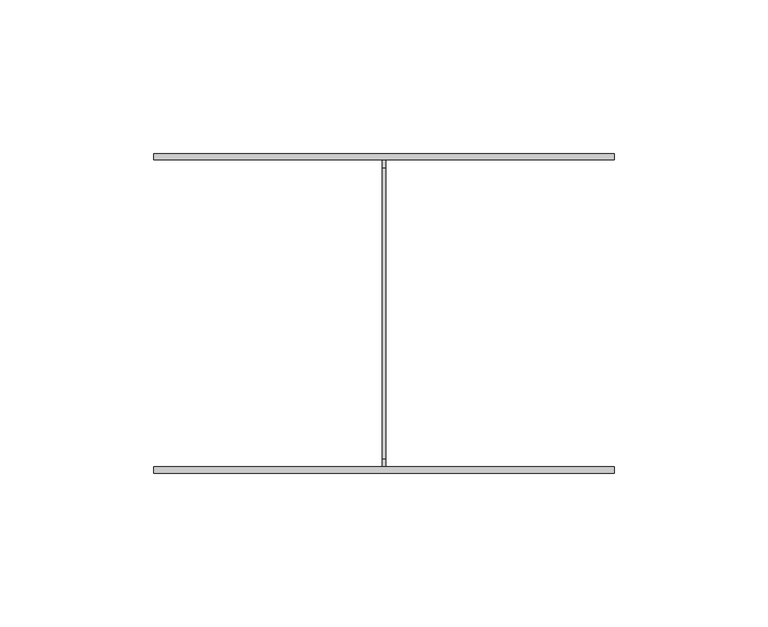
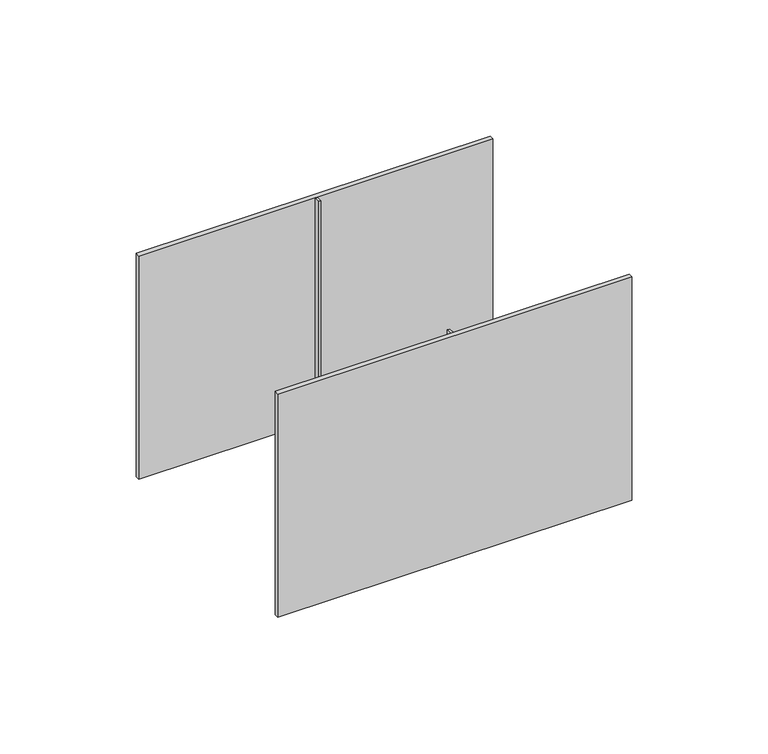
"""IFC4 building model written with IfcOpenShell, lengths in millimetres: cable carrier fitting geometry, BAKS_Plate_connector : LZCH100."""

from ifc_helpers import new_model, si_unit, frame, origin, place, context, project, spatial, polyline, outline, extrude, source, transform, mapped, element, save


def cable_carrier_fitting_aaacfa07(model_context):
    return source(origin(), model_context, "Body", "SweptSolid", [
        extrude(outline(polyline([(75.5, 52.0), (75.5, 50.0), (-74.5, 50.0), (-74.5, 52.0), (75.5, 52.0)])), frame((0.0, 0.0, -50.0), z_axis=(0.0, 0.0, 1.0), x_axis=(1.0, 0.0, 0.0)), (0.0, 0.0, 1.0), 100.0),
        extrude(outline(polyline([(75.5, -50.0), (75.5, -52.0), (-74.5, -52.0), (-74.5, -50.0), (75.5, -50.0)])), frame((0.0, 0.0, -50.0), z_axis=(0.0, 0.0, 1.0), x_axis=(1.0, 0.0, 0.0)), (0.0, 0.0, 1.0), 100.0),
        extrude(outline(polyline([(-50.0, -50.0), (-50.0, 50.0), (-47.46, 50.0), (-47.46, -47.46), (47.46, -47.46), (47.46, 50.0), (50.0, 50.0), (50.0, -50.0), (-50.0, -50.0)])), frame((0.0, 0.0, 0.0), z_axis=(1.0, 0.0, 0.0), x_axis=(0.0, 1.0, 0.0)), (0.0, 0.0, 1.0), 1.0),
    ])


if __name__ == "__main__":
    model = new_model("IFC4")
    model_context = context("Model", 3, world=origin())
    ifc_project = project(units=[si_unit("LENGTHUNIT", "METRE", prefix="MILLI")], contexts=[model_context])
    site = spatial("IfcSite", under=ifc_project)
    building = spatial("IfcBuilding", under=site)
    placement = place(None, origin())
    cable_carrier_fitting_shape = cable_carrier_fitting_aaacfa07(model_context)
    element("IfcCableCarrierFitting", 1, ObjectType="BAKS_Plate_connector : LZCH100", at=placement, inside=building, context=model_context, shape_type="MappedRepresentation", body=[
        mapped(cable_carrier_fitting_shape, transform((0.0, 0.0, 0.0), x_axis=(1.0, 0.0, 0.0), y_axis=(0.0, 1.0, 0.0), z_axis=(0.0, 0.0, 1.0))),
    ])
    save(model, "model.ifc")
